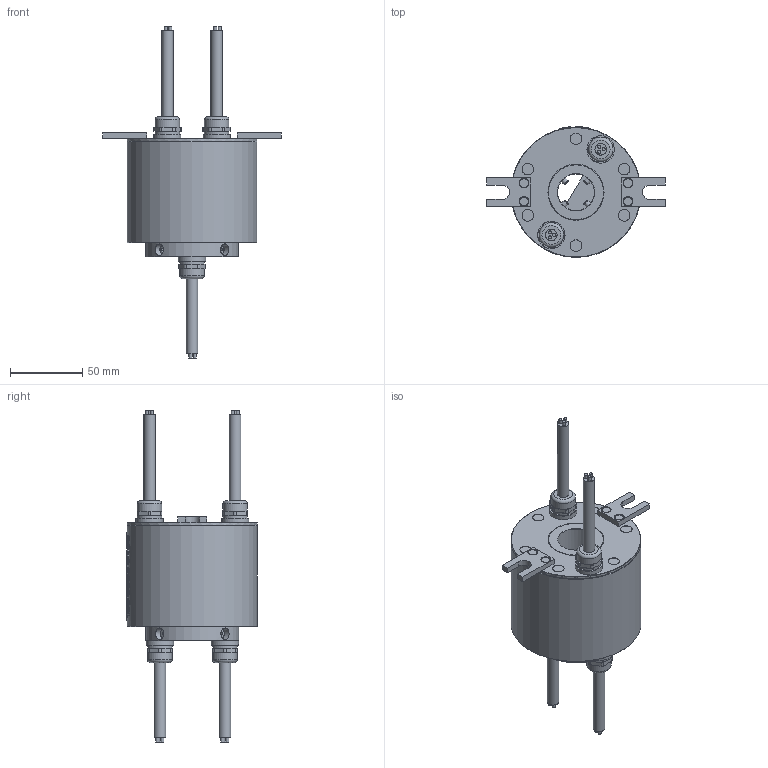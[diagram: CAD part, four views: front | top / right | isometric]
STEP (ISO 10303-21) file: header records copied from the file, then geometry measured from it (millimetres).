
FILE_DESCRIPTION(/* description */ (''),/* implementation_level */ '2;1');
FILE_NAME(/* name */ 'YDF2590-0610-3D模型.stp',/* time_stamp */ '2025-09-23T14:57:53+08:00',/* author */ (''),/* organization */ (''),/* preprocessor_version */ 'ST-DEVELOPER v16.7',/* originating_system */ 'SIEMENS PLM Software NX 12.0',/* authorisation */ '');
FILE_SCHEMA (('AUTOMOTIVE_DESIGN { 1 0 10303 214 3 1 1 1 }'));
Length unit declared in the file: millimetre
Products named in the file (1): Admi8A8072AE0wkm
Bounding box: 124 x 90.5 x 230 mm (x, y, z)
Volume: 476224.6 mm3; surface area: 56552.3 mm2
Topology: 1 solids, 4 shells, 1028 faces, 2689 edges, 1776 vertices
Faces by surface type: extrusion 452, plane 411, cylinder 106, bspline 33, cone 17, torus 9
Full cylindrical faces by diameter (mm): 2.2 x12, 4 x4, 6 x4, 7 x4, 8 x14, 10.2 x2, 17 x8, 19 x4, 25.4 x1, 38.4 x1, 38.8 x1, 42 x1, 64.4 x1, 64.8 x1, 77.4 x1, 84.2 x1, 90 x2
Entity records: 38851 total; most frequent: CARTESIAN_POINT 17306, ORIENTED_EDGE 5122, DIRECTION 2748, EDGE_CURVE 2561, B_SPLINE_CURVE_WITH_KNOTS 2204, VERTEX_POINT 1736, EDGE_LOOP 1227, ADVANCED_FACE 1028
